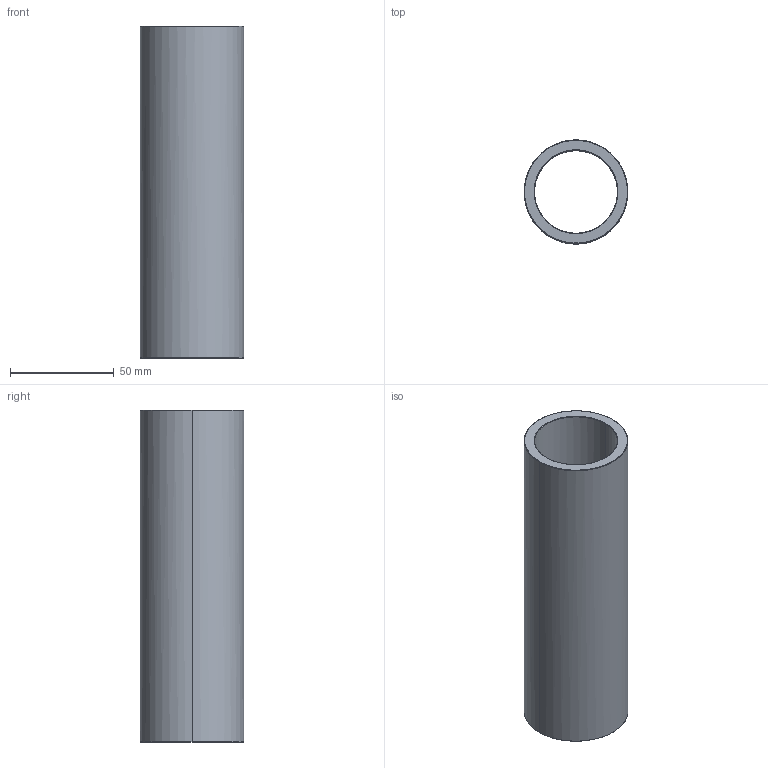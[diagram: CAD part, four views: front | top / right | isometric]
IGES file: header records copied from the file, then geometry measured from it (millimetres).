
Start section: Write IGES format                                    datakit 2008 (c)
Global section: file name: Unknown; native system: DATAKIT Converter; preprocessor: Unknown; author: Unknown; organization: Unknown; date: 950613.180003; units: millimetre
Bounding box: 50 x 49.93 x 160 mm (x, y, z)
Surface area: 46586.4 mm2 (no closed solid volume)
Topology: 0 solids, 0 shells, 14 faces, 56 edges, 56 vertices
Faces by surface type: revolution 12, bspline 2
